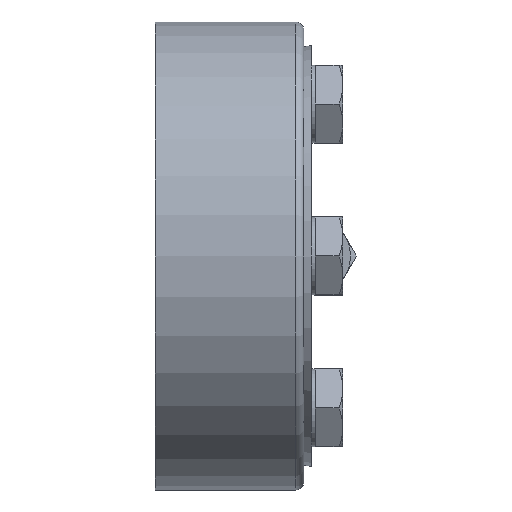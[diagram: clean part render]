
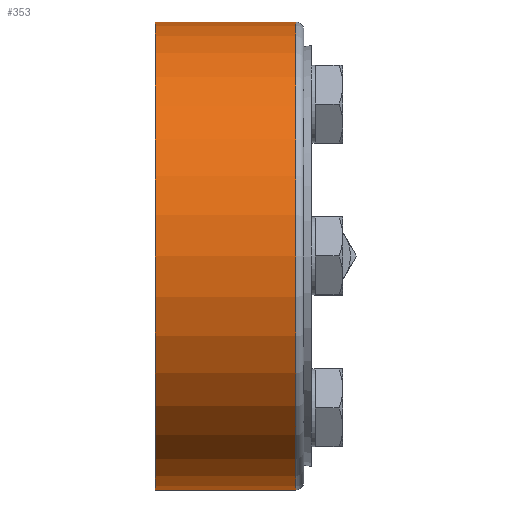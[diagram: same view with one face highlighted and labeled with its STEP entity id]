
A CAD part, left-side view. The second image highlights one B-rep face of the part: STEP entity #353.
In plain terms, the highlighted cylindrical face has radius 30 mm (diameter 60 mm), a full revolution.
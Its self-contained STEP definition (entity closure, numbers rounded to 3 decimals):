
#353 = ADVANCED_FACE( '', ( #576, #577 ), #578, .T. );
#576 = FACE_OUTER_BOUND( '', #712, .T. );
#577 = FACE_OUTER_BOUND( '', #713, .T. );
#578 = CYLINDRICAL_SURFACE( '', #714, 30. );
#712 = EDGE_LOOP( '', ( #882 ) );
#713 = EDGE_LOOP( '', ( #883 ) );
#714 = AXIS2_PLACEMENT_3D( '', #884, #885, #886 );
#882 = ORIENTED_EDGE( '', *, *, #1193, .T. );
#883 = ORIENTED_EDGE( '', *, *, #1194, .T. );
#884 = CARTESIAN_POINT( '', ( 0., -60., 0. ) );
#885 = DIRECTION( '', ( 0., 1., 0. ) );
#886 = DIRECTION( '', ( 0., 0., -1. ) );
#1193 = EDGE_CURVE( '', #1320, #1320, #1321, .F. );
#1194 = EDGE_CURVE( '', #1322, #1322, #1323, .T. );
#1320 = VERTEX_POINT( '', #1407 );
#1321 = CIRCLE( '', #1408, 30. );
#1322 = VERTEX_POINT( '', #1409 );
#1323 = CIRCLE( '', #1410, 30. );
#1407 = CARTESIAN_POINT( '', ( 0., 2., -30. ) );
#1408 = AXIS2_PLACEMENT_3D( '', #1534, #1535, #1536 );
#1409 = CARTESIAN_POINT( '', ( 0., 20., -30. ) );
#1410 = AXIS2_PLACEMENT_3D( '', #1537, #1538, #1539 );
#1534 = CARTESIAN_POINT( '', ( 0., 2., 0. ) );
#1535 = DIRECTION( '', ( 0., -1., 0. ) );
#1536 = DIRECTION( '', ( 0., 0., -1. ) );
#1537 = CARTESIAN_POINT( '', ( 0., 20., 0. ) );
#1538 = DIRECTION( '', ( 0., -1., 0. ) );
#1539 = DIRECTION( '', ( 0., 0., -1. ) );
